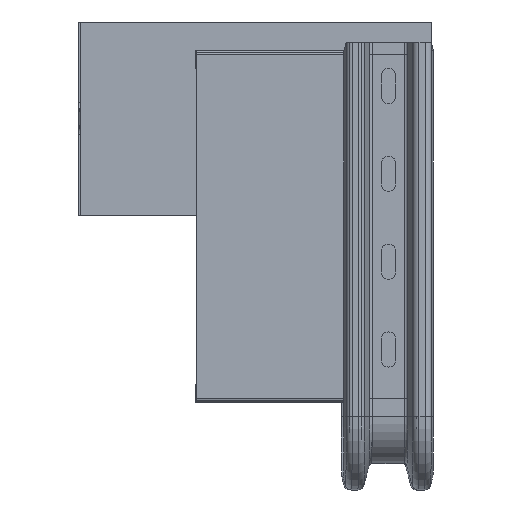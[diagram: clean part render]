
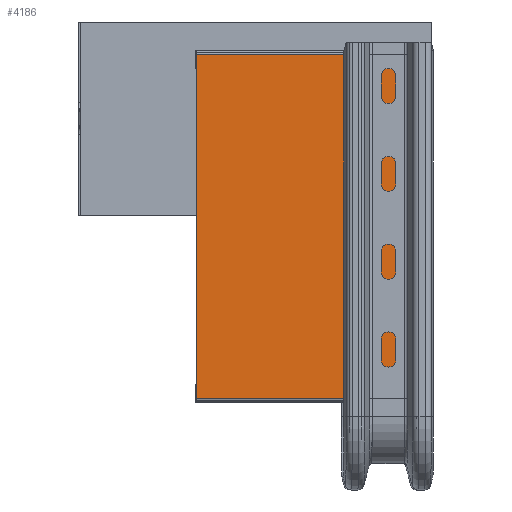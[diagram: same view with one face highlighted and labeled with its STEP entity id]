
A CAD part, front view. The second image highlights one B-rep face of the part: STEP entity #4186.
In plain terms, the highlighted planar face has unit normal (0.01, -1, 0) as drawn and (0, -1, 0) by its records, which use the part's own axes.
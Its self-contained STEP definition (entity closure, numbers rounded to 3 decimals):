
#786 = ORIENTED_EDGE ( 'NONE', *, *, #8970, .F. ) ;
#1059 = AXIS2_PLACEMENT_3D ( 'NONE', #8693, #11957, #2200 ) ;
#1875 = CARTESIAN_POINT ( 'NONE',  ( 1.9, 0., -125. ) ) ;
#2200 = DIRECTION ( 'NONE',  ( 0., 0., -1. ) ) ;
#2208 = EDGE_LOOP ( 'NONE', ( #786, #2232, #13168, #14561 ) ) ;
#2232 = ORIENTED_EDGE ( 'NONE', *, *, #20964, .F. ) ;
#2386 = LINE ( 'NONE', #11452, #10550 ) ;
#2620 = VERTEX_POINT ( 'NONE', #12848 ) ;
#2795 = VERTEX_POINT ( 'NONE', #16384 ) ;
#2860 = VECTOR ( 'NONE', #13254, 1000. ) ;
#3102 = CARTESIAN_POINT ( 'NONE',  ( 198.1, 0., -125. ) ) ;
#3200 = DIRECTION ( 'NONE',  ( 1., 0., 0. ) ) ;
#4186 = ADVANCED_FACE ( 'NONE', ( #18043 ), #16768, .T. ) ;
#4910 = VERTEX_POINT ( 'NONE', #6856 ) ;
#6256 = CARTESIAN_POINT ( 'NONE',  ( 1.9, 0., -125. ) ) ;
#6856 = CARTESIAN_POINT ( 'NONE',  ( 1.9, 0., 0. ) ) ;
#8059 = VECTOR ( 'NONE', #14462, 1000. ) ;
#8693 = CARTESIAN_POINT ( 'NONE',  ( 0., 0., -125. ) ) ;
#8970 = EDGE_CURVE ( 'NONE', #4910, #2795, #10385, .T. ) ;
#9707 = DIRECTION ( 'NONE',  ( 1., 0., 0. ) ) ;
#10385 = LINE ( 'NONE', #17788, #14178 ) ;
#10550 = VECTOR ( 'NONE', #3200, 1000. ) ;
#11452 = CARTESIAN_POINT ( 'NONE',  ( 0., 0., -125. ) ) ;
#11957 = DIRECTION ( 'NONE',  ( 0., -1., 0. ) ) ;
#12848 = CARTESIAN_POINT ( 'NONE',  ( 198.1, 0., -125. ) ) ;
#13168 = ORIENTED_EDGE ( 'NONE', *, *, #17642, .T. ) ;
#13254 = DIRECTION ( 'NONE',  ( 0., 0., 1. ) ) ;
#14178 = VECTOR ( 'NONE', #9707, 1000. ) ;
#14462 = DIRECTION ( 'NONE',  ( 0., 0., 1. ) ) ;
#14561 = ORIENTED_EDGE ( 'NONE', *, *, #16741, .T. ) ;
#15294 = LINE ( 'NONE', #1875, #2860 ) ;
#15938 = VERTEX_POINT ( 'NONE', #6256 ) ;
#16384 = CARTESIAN_POINT ( 'NONE',  ( 198.1, 0., 0. ) ) ;
#16681 = LINE ( 'NONE', #3102, #8059 ) ;
#16741 = EDGE_CURVE ( 'NONE', #2620, #2795, #16681, .T. ) ;
#16768 = PLANE ( 'NONE',  #1059 ) ;
#17642 = EDGE_CURVE ( 'NONE', #15938, #2620, #2386, .T. ) ;
#17788 = CARTESIAN_POINT ( 'NONE',  ( 0., 0., 0. ) ) ;
#18043 = FACE_OUTER_BOUND ( 'NONE', #2208, .T. ) ;
#20964 = EDGE_CURVE ( 'NONE', #15938, #4910, #15294, .T. ) ;
